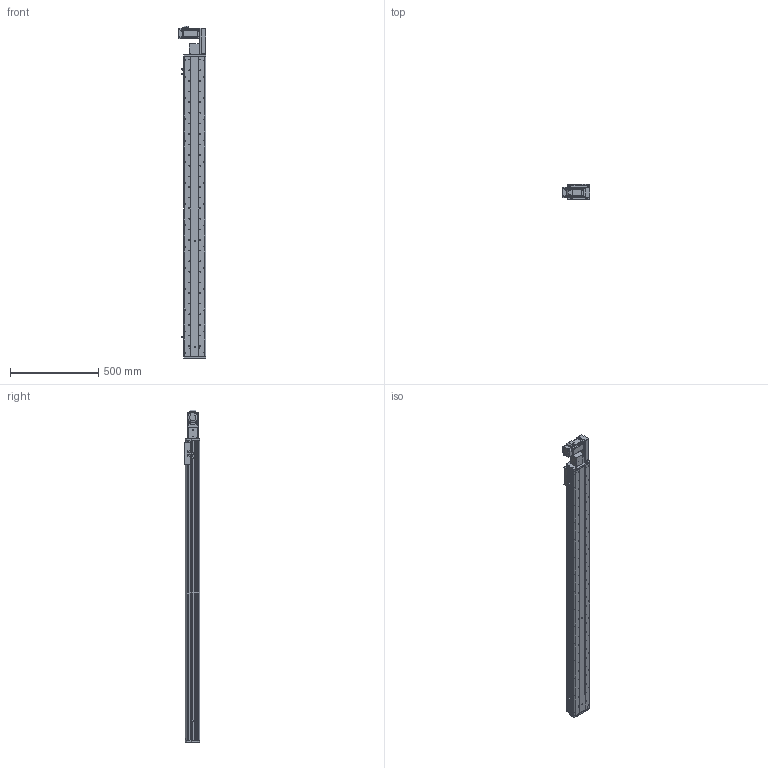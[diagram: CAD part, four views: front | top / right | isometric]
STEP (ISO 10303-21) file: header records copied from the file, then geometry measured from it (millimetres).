
FILE_DESCRIPTION (( 'STEP AP214' ), '1' );
FILE_NAME ('KSD125B-S1500-MLB-CM.STEP', '2017-10-21T02:06:45', ( '微软用户' ), ( '微软中国' ), 'SwSTEP 2.0', 'SolidWorks 2014', '' );
FILE_SCHEMA (( 'AUTOMOTIVE_DESIGN' ));
Length unit declared in the file: millimetre
Products named in the file (17): MHMD042G1CA_2_03; KSD125模组同步带-防撞垫2; 覜茼え68遵圉猾敕; U倰嫖萇假蚾璃; U倰嫖萇EEㄜSX672; KSD125模组同步带-防撞垫1; 前端板-125宽模组同步带; 125模组同步带-尾端板1; KSD125模组同步带-滑动座1; KSD125B-S1500-MLB-CM; 悵誘欶奻狟殏; HTPA30S3M150_A_H6_a佪裝蚚; HTPA30S3M150_A_H6_a萇儂蚚; 100宽马达安装板连板上下折丝杆同步带; 100宽马达安装板同步带左; KSD125模组1500行程同步带-防尘盖; 125模组1500行程同步带-底板
Assembly tree (20 placements, depth 2):
  KSD125B-S1500-MLB-CM
    KSD125模组同步带-滑动座1
    125模组同步带-尾端板1
    前端板-125宽模组同步带
    KSD125模组同步带-防撞垫1
    U倰嫖萇EEㄜSX672  x3
    U倰嫖萇假蚾璃  x3
    覜茼え68遵圉猾敕
    KSD125模组同步带-防撞垫2
    MHMD042G1CA_2_03
    125模组1500行程同步带-底板
    KSD125模组1500行程同步带-防尘盖
    100宽马达安装板同步带左
    100宽马达安装板连板上下折丝杆同步带
    HTPA30S3M150_A_H6_a萇儂蚚
    HTPA30S3M150_A_H6_a佪裝蚚
    悵誘欶奻狟殏
Bounding box: 155 x 86 x 1878 mm (x, y, z)
Volume: 5257825.6 mm3; surface area: 1742590.6 mm2
Topology: 19 solids, 22 shells, 2397 faces, 6955 edges, 4598 vertices
Faces by surface type: cylinder 1532, plane 738, cone 105, bspline 22
Entity records: 84669 total; most frequent: CARTESIAN_POINT 16905, DIRECTION 13340, ORIENTED_EDGE 12430, EDGE_CURVE 6293, AXIS2_PLACEMENT_3D 5181, VERTEX_POINT 4190, CIRCLE 3002, VECTOR 2978
